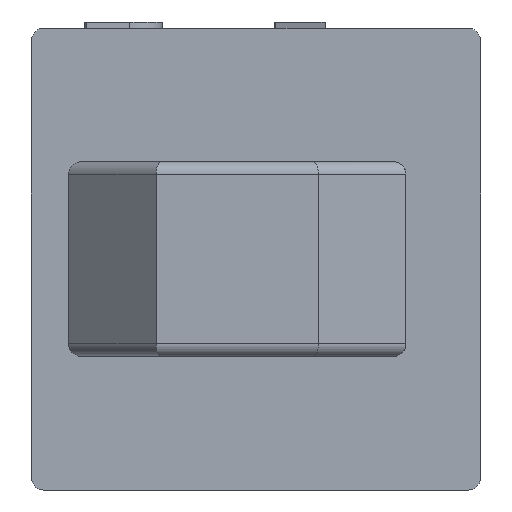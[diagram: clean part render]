
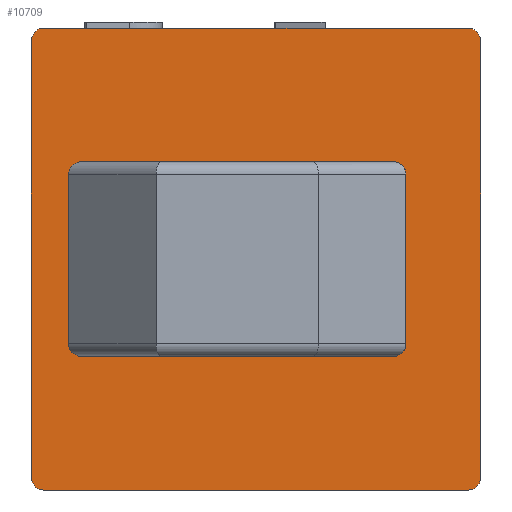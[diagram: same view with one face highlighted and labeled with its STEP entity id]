
A CAD part, left-side view. The second image highlights one B-rep face of the part: STEP entity #10709.
In plain terms, the highlighted planar face has unit normal (-1, 0, 0).
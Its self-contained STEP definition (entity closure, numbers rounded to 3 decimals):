
#88=CARTESIAN_POINT('',(0.0,13.85,-10.25));
#89=VERTEX_POINT('',#88);
#90=CARTESIAN_POINT('',(0.0,11.35,-12.75));
#91=VERTEX_POINT('',#90);
#92=CARTESIAN_POINT('',(0.,11.35,-10.25));
#93=DIRECTION('',(1.,0.,0.));
#94=DIRECTION('',(0.,0.707,-0.707));
#95=AXIS2_PLACEMENT_3D('',#92,#93,#94);
#96=CIRCLE('',#95,2.5);
#97=EDGE_CURVE('',#89,#91,#96,.F.);
#131=CARTESIAN_POINT('',(0.0,5.65,-12.75));
#132=VERTEX_POINT('',#131);
#133=CARTESIAN_POINT('',(0.0,11.35,-12.75));
#134=DIRECTION('',(0.0,-1.0,0.0));
#135=VECTOR('',#134,5.7);
#136=LINE('',#133,#135);
#137=EDGE_CURVE('',#91,#132,#136,.T.);
#161=CARTESIAN_POINT('',(0.0,5.65,-8.25));
#162=VERTEX_POINT('',#161);
#163=CARTESIAN_POINT('',(0.0,8.15,-5.75));
#164=VERTEX_POINT('',#163);
#165=CARTESIAN_POINT('',(0.,8.15,-8.25));
#166=DIRECTION('',(1.,0.,0.));
#167=DIRECTION('',(0.,-0.707,0.707));
#168=AXIS2_PLACEMENT_3D('',#165,#166,#167);
#169=CIRCLE('',#168,2.5);
#170=EDGE_CURVE('',#162,#164,#169,.F.);
#204=CARTESIAN_POINT('',(0.0,13.85,-5.75));
#205=VERTEX_POINT('',#204);
#206=CARTESIAN_POINT('',(0.0,8.15,-5.75));
#207=DIRECTION('',(0.0,1.0,0.0));
#208=VECTOR('',#207,5.7);
#209=LINE('',#206,#208);
#210=EDGE_CURVE('',#164,#205,#209,.T.);
#242=CARTESIAN_POINT('',(0.0,13.85,-5.75));
#243=DIRECTION('',(0.0,0.0,-1.0));
#244=VECTOR('',#243,4.5);
#245=LINE('',#242,#244);
#246=EDGE_CURVE('',#205,#89,#245,.T.);
#264=CARTESIAN_POINT('',(0.0,5.65,-8.25));
#265=DIRECTION('',(0.0,0.0,-1.0));
#266=VECTOR('',#265,4.5);
#267=LINE('',#264,#266);
#268=EDGE_CURVE('',#162,#132,#267,.T.);
#6244=CARTESIAN_POINT('',(0.0,0.502,0.0));
#6245=VERTEX_POINT('',#6244);
#6269=CARTESIAN_POINT('',(0.0,17.5,0.0));
#6270=VERTEX_POINT('',#6269);
#6277=CARTESIAN_POINT('',(0.0,17.5,0.0));
#6278=DIRECTION('',(0.0,-1.0,0.0));
#6279=VECTOR('',#6278,16.998);
#6280=LINE('',#6277,#6279);
#6281=EDGE_CURVE('',#6270,#6245,#6280,.T.);
#8394=CARTESIAN_POINT('',(0.0,18.0,-18.0));
#8395=VERTEX_POINT('',#8394);
#8404=CARTESIAN_POINT('',(0.0,18.0,-0.5));
#8405=VERTEX_POINT('',#8404);
#8406=CARTESIAN_POINT('',(0.0,18.0,-0.5));
#8407=DIRECTION('',(0.0,0.0,-1.0));
#8408=VECTOR('',#8407,17.5);
#8409=LINE('',#8406,#8408);
#8410=EDGE_CURVE('',#8405,#8395,#8409,.T.);
#10093=CARTESIAN_POINT('',(0.0,0.0,-0.5));
#10094=VERTEX_POINT('',#10093);
#10101=CARTESIAN_POINT('',(0.0,0.0,-18.0));
#10102=VERTEX_POINT('',#10101);
#10103=CARTESIAN_POINT('',(0.0,0.0,-0.5));
#10104=DIRECTION('',(0.0,0.0,-1.0));
#10105=VECTOR('',#10104,17.5);
#10106=LINE('',#10103,#10105);
#10107=EDGE_CURVE('',#10094,#10102,#10106,.T.);
#10270=CARTESIAN_POINT('',(0.0,17.5,-18.5));
#10271=VERTEX_POINT('',#10270);
#10272=CARTESIAN_POINT('',(0.0,17.5,-18.0));
#10273=DIRECTION('',(1.,0.0,0.0));
#10274=DIRECTION('',(0.0,0.707,-0.707));
#10275=AXIS2_PLACEMENT_3D('',#10272,#10273,#10274);
#10276=CIRCLE('',#10275,0.5);
#10277=EDGE_CURVE('',#10271,#8395,#10276,.T.);
#10350=CARTESIAN_POINT('',(0.0,17.5,-0.5));
#10351=DIRECTION('',(1.,0.0,0.0));
#10352=DIRECTION('',(0.0,0.707,0.707));
#10353=AXIS2_PLACEMENT_3D('',#10350,#10351,#10352);
#10354=CIRCLE('',#10353,0.5);
#10355=EDGE_CURVE('',#8405,#6270,#10354,.T.);
#10418=CARTESIAN_POINT('',(0.0,0.502,-18.5));
#10419=VERTEX_POINT('',#10418);
#10420=CARTESIAN_POINT('',(0.0,0.502,-18.0));
#10421=DIRECTION('',(1.0,0.0,0.0));
#10422=DIRECTION('',(0.0,-1.0,0.0));
#10423=AXIS2_PLACEMENT_3D('',#10420,#10421,#10422);
#10424=ELLIPSE('',#10423,0.502,0.5);
#10425=EDGE_CURVE('',#10102,#10419,#10424,.T.);
#10443=CARTESIAN_POINT('',(0.0,0.502,-0.5));
#10444=DIRECTION('',(1.0,0.0,0.0));
#10445=DIRECTION('',(0.0,-1.0,0.0));
#10446=AXIS2_PLACEMENT_3D('',#10443,#10444,#10445);
#10447=ELLIPSE('',#10446,0.502,0.5);
#10448=EDGE_CURVE('',#6245,#10094,#10447,.T.);
#10681=CARTESIAN_POINT('',(0.0,18.0,0.0));
#10682=DIRECTION('',(-1.0,0.0,0.0));
#10683=DIRECTION('',(0.0,0.0,1.0));
#10684=AXIS2_PLACEMENT_3D('',#10681,#10682,#10683);
#10685=PLANE('',#10684);
#10686=CARTESIAN_POINT('',(0.0,17.5,-18.5));
#10687=DIRECTION('',(0.0,-1.0,0.0));
#10688=VECTOR('',#10687,16.998);
#10689=LINE('',#10686,#10688);
#10690=EDGE_CURVE('',#10271,#10419,#10689,.T.);
#10691=ORIENTED_EDGE('',*,*,#10690,.T.);
#10692=ORIENTED_EDGE('',*,*,#10425,.F.);
#10693=ORIENTED_EDGE('',*,*,#10107,.F.);
#10694=ORIENTED_EDGE('',*,*,#10448,.F.);
#10695=ORIENTED_EDGE('',*,*,#6281,.F.);
#10696=ORIENTED_EDGE('',*,*,#10355,.F.);
#10697=ORIENTED_EDGE('',*,*,#8410,.T.);
#10698=ORIENTED_EDGE('',*,*,#10277,.F.);
#10699=EDGE_LOOP('',(#10691,#10692,#10693,#10694,#10695,#10696,#10697,#10698));
#10700=FACE_OUTER_BOUND('',#10699,.T.);
#10701=ORIENTED_EDGE('',*,*,#246,.F.);
#10702=ORIENTED_EDGE('',*,*,#210,.F.);
#10703=ORIENTED_EDGE('',*,*,#170,.F.);
#10704=ORIENTED_EDGE('',*,*,#268,.T.);
#10705=ORIENTED_EDGE('',*,*,#137,.F.);
#10706=ORIENTED_EDGE('',*,*,#97,.F.);
#10707=EDGE_LOOP('',(#10701,#10702,#10703,#10704,#10705,#10706));
#10708=FACE_BOUND('',#10707,.T.);
#10709=ADVANCED_FACE('',(#10700,#10708),#10685,.T.);
